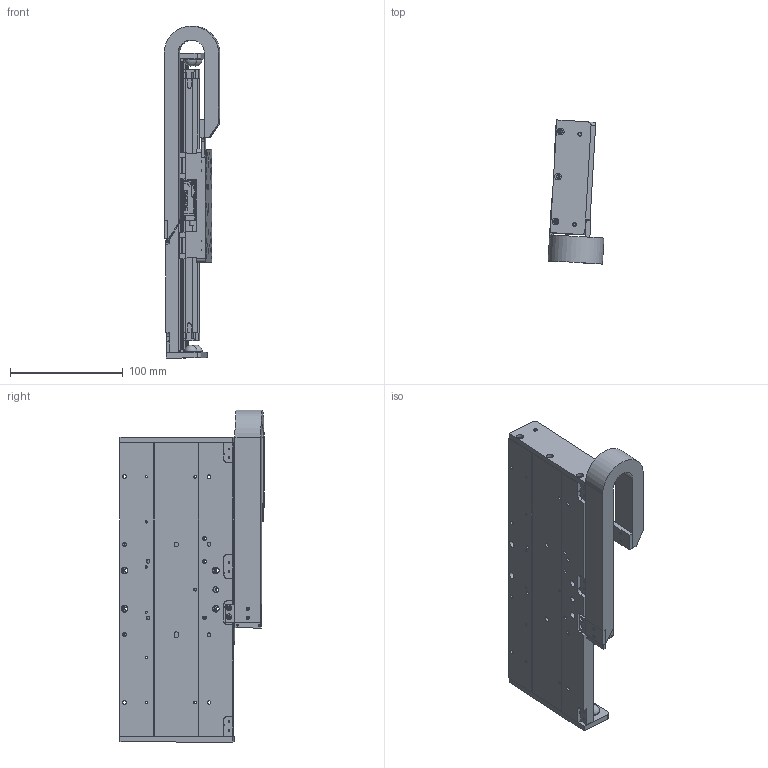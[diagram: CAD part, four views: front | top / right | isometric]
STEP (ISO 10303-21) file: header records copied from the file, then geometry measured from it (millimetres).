
FILE_DESCRIPTION(/* description */ (''),/* implementation_level */ '2;1');
FILE_NAME(/* name */ 'I:\FY15 Projects\MSR\MSR100\Web Step Models\mSR100L-150XLSXXXXXXCM13.stp',/* time_stamp */ '2015-02-18T13:14:15-05:00',/* author */ ('BF20108'),/* organization */ (''),/* preprocessor_version */ 'ST-DEVELOPER v15.2',/* originating_system */ 'Autodesk Inventor 2014',/* authorisation */ '');
FILE_SCHEMA (('AUTOMOTIVE_DESIGN { 1 0 10303 214 3 1 1 }'));
Products named in the file (17): 102-5710-04; 003-3562-36; 102-5702-03; ml18-120m-n; 102-5703-01; 102-5705-01; 002-3740-04; 102-5701; 003-3561; ML18-3E; 003-5000; 002-3740-short-carriage-assy; mx100-mcb; mx100-scb; e045-16-018-carrier-03; 002-3740-cbl-carr-sc-03; 002-3740
Bounding box: 49.52 x 127.64 x 294.12 mm (x, y, z)
Volume: 512140.6 mm3; surface area: 245608.8 mm2
Topology: 23 solids, 24 shells, 2169 faces, 5855 edges, 3787 vertices
Faces by surface type: plane 1174, cylinder 744, cone 143, torus 96, bspline 8, sphere 4
Full cylindrical faces by diameter (mm): 0.5 x8, 1 x4, 1.567 x63, 1.588 x2, 2.007 x12, 2.013 x10, 2.135 x4, 2.4 x34, 2.459 x21, 2.5 x20, 2.642 x4, 2.75 x1, 3 x20, 3.242 x15, 3.4 x21, 3.505 x4, 4 x4, 4.17 x2, 4.2 x35, 4.5 x18, 5 x8, 5.08 x2, 6 x25, 11.176 x4
Entity records: 47998 total; most frequent: CARTESIAN_POINT 8933, DIRECTION 8021, ORIENTED_EDGE 7538, EDGE_CURVE 3759, AXIS2_PLACEMENT_3D 2761, VERTEX_POINT 2633, LINE 2499, VECTOR 2499
